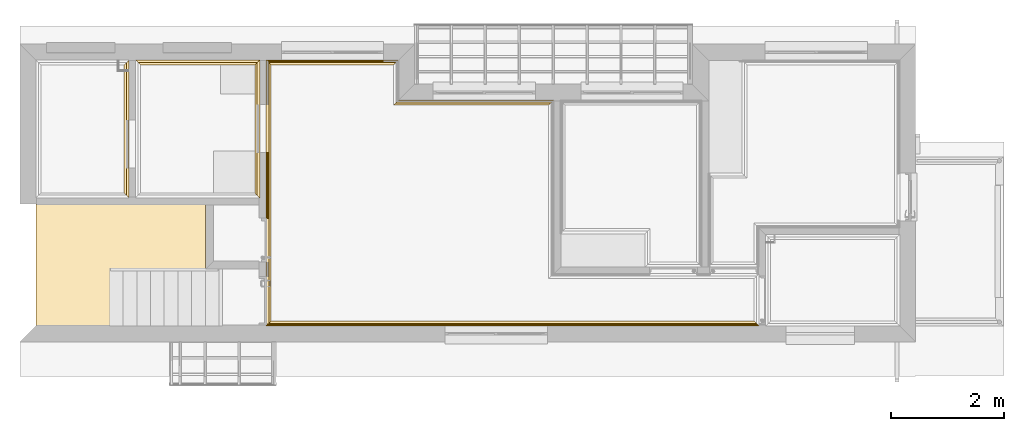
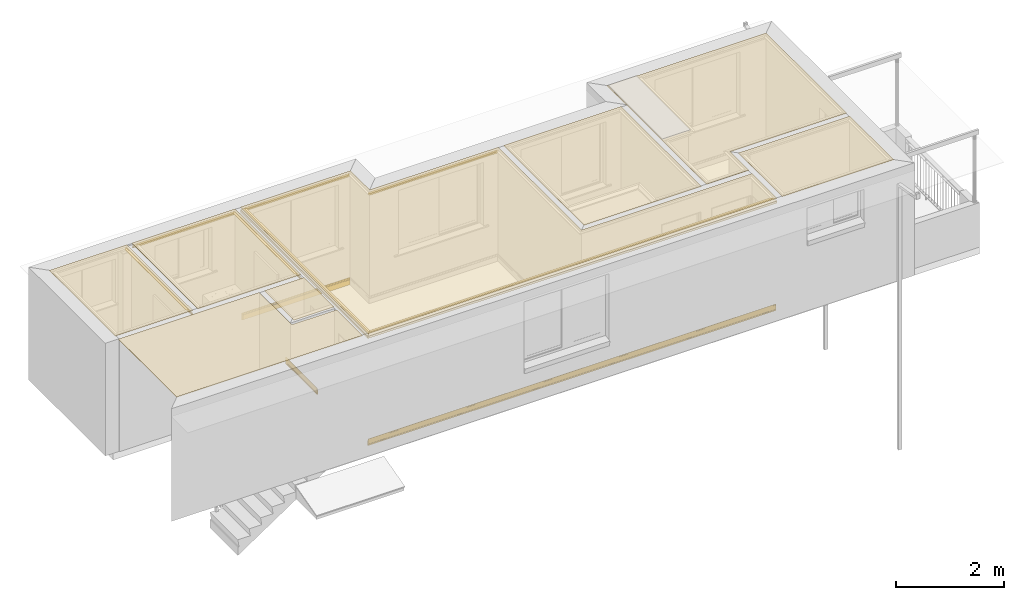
# One storey, part 12 of 18: 11 coverings.
"""IFC2X3 building model written with IfcOpenShell, lengths in millimetres."""

import ifcopenshell
import ifcopenshell.guid

model = None  # the IFC model being written
_history = None  # IfcOwnerHistory: only IFC2X3 demands one
_inside = {}  # id of a spatial element -> (the spatial element, [elements in it])
_under = {}  # id of a project, library or spatial element -> (it, [spatial elements below it])
_declared = {}  # id of a project -> (the project, [libraries it declares])
_typed = {}  # id of a type object -> (the type object, [elements of that type])
_made_of = {}  # id of a material, layer set ... -> (it, [elements and type objects made of it])


def new_model(schema):
    """Start an empty IFC model of exactly this schema.

    Asked for "IFC4X3", IfcOpenShell would pick the latest addendum, in which some entities
    have other attributes; the version numbers below select the first issue.
    IFC2X3 requires an IfcOwnerHistory on every rooted entity: one is made here for all.
    """
    global model, _history
    if schema == "IFC4X3":
        model = ifcopenshell.file(schema_version=(4, 3, 0, 0))
    else:
        model = ifcopenshell.file(schema=schema)
    _inside.clear()
    _under.clear()
    _declared.clear()
    _typed.clear()
    _made_of.clear()
    _history = None
    if model.schema == "IFC2X3":
        org = make("IfcOrganization", Name="unknown")
        user = make(
            "IfcPersonAndOrganization",
            ThePerson=make("IfcPerson", FamilyName="unknown"),
            TheOrganization=org,
        )
        app = make(
            "IfcApplication",
            ApplicationDeveloper=org,
            Version="unknown",
            ApplicationFullName="unknown",
            ApplicationIdentifier="unknown",
        )
        _history = make(
            "IfcOwnerHistory",
            OwningUser=user,
            OwningApplication=app,
            ChangeAction="ADDED",
            CreationDate=0,
        )
    return model


def make(cls, **values):
    """One entity of the class cls with the attributes given. An attribute that is None is left unset."""
    return model.create_entity(
        cls, **{name: value for name, value in values.items() if value is not None}
    )


def entity(cls, *values):
    """Any entity or typed value of the class cls, its attributes in the order of the schema. None: left unset."""
    e = model.create_entity(cls)
    for i, value in enumerate(values):
        if value is not None:
            e[i] = value
    return e


def rooted(cls, **values):
    """An entity with a GlobalId (a new one), such as an element, a storey or a relation."""
    return make(cls, GlobalId=ifcopenshell.guid.new(), OwnerHistory=_history, **values)


def si_unit(unit_type, name, prefix=None):
    """IfcSIUnit, for example si_unit("LENGTHUNIT", "METRE", prefix="MILLI")."""
    return make("IfcSIUnit", UnitType=unit_type, Prefix=prefix, Name=name)


def converted_unit(unit_type, name, factor, base, dimensions=None, offset=None):
    """IfcConversionBasedUnit, such as the inch: factor (a typed value) times the base unit."""
    return make(
        "IfcConversionBasedUnit"
        if offset is None
        else "IfcConversionBasedUnitWithOffset",
        ConversionOffset=offset,
        Dimensions=None
        if dimensions is None
        else entity("IfcDimensionalExponents", *dimensions),
        UnitType=unit_type,
        Name=name,
        ConversionFactor=make(
            "IfcMeasureWithUnit", ValueComponent=factor, UnitComponent=base
        ),
    )


def money_unit(currency):
    """IfcMonetaryUnit."""
    return make("IfcMonetaryUnit", Currency=currency)


def assignment(units):
    """IfcUnitAssignment: the units of a project."""
    return None if units is None else make("IfcUnitAssignment", Units=units)


def point(xyz):
    """IfcCartesianPoint."""
    return None if xyz is None else make("IfcCartesianPoint", Coordinates=xyz)


def direction(xyz):
    """IfcDirection."""
    return None if xyz is None else make("IfcDirection", DirectionRatios=xyz)


def frame(location, z_axis=None, x_axis=None):
    """IfcAxis2Placement3D, a coordinate frame: its origin and axes. An axis left out is left unset."""
    return make(
        "IfcAxis2Placement3D",
        Location=point(location),
        Axis=direction(z_axis),
        RefDirection=direction(x_axis),
    )


def origin_with_axes():
    """The frame at (0, 0, 0) with the z axis (0, 0, 1) and the x axis (1, 0, 0) written out."""
    return frame((0.0, 0.0, 0.0), z_axis=(0.0, 0.0, 1.0), x_axis=(1.0, 0.0, 0.0))


def place(relative_to, where):
    """IfcLocalPlacement: puts the frame where relative to a parent placement (None: the world)."""
    return make(
        "IfcLocalPlacement", PlacementRelTo=relative_to, RelativePlacement=where
    )


def context(
    kind, dimensions, precision=None, world=None, true_north=None, identifier=None
):
    """IfcGeometricRepresentationContext, for example the 3D "Model" context."""
    return make(
        "IfcGeometricRepresentationContext",
        ContextIdentifier=identifier,
        ContextType=kind,
        CoordinateSpaceDimension=dimensions,
        Precision=precision,
        WorldCoordinateSystem=world,
        TrueNorth=true_north,
    )


def subcontext(parent, identifier, kind, view, scale=None):
    """IfcGeometricRepresentationSubContext, for example "Body" below "Model"."""
    return make(
        "IfcGeometricRepresentationSubContext",
        ContextIdentifier=identifier,
        ContextType=kind,
        ParentContext=parent,
        TargetScale=scale,
        TargetView=view,
    )


def project(units=None, contexts=None):
    """IfcProject with its units and contexts."""
    return rooted(
        "IfcProject",
        Name="project",
        RepresentationContexts=contexts,
        UnitsInContext=assignment(units),
    )


def spatial(cls, under=None, at=None, **own):
    """A site, building, storey or space (cls), placed at a placement, below another one or the project."""
    s = rooted(cls, ObjectPlacement=at, **own)
    if under is not None:
        _under.setdefault(under.id(), (under, []))[1].append(s)
    return s


def faces_of(points, faces, orient=None, outer=None):
    """IfcFace entities. A face is a list of loops; a loop is a list of indices into points, from 0.

    orient and outer hold one flag for each loop. By default every Orientation is true, the
    first loop of a face is its IfcFaceOuterBound and the others are IfcFaceBound.
    """
    made = []
    for i, loops in enumerate(faces):
        bounds = []
        for j, loop in enumerate(loops):
            is_outer = j == 0 if outer is None else outer[i][j]
            bounds.append(
                make(
                    "IfcFaceOuterBound" if is_outer else "IfcFaceBound",
                    Bound=make("IfcPolyLoop", Polygon=[points[k] for k in loop]),
                    Orientation=True if orient is None else orient[i][j],
                )
            )
        made.append(make("IfcFace", Bounds=bounds))
    return made


def faceted_brep(points, faces, orient=None, outer=None, voids=None):
    """IfcFacetedBrep: a solid bounded by flat faces; with voids (closed shells), ...WithVoids."""
    shared = [point(p) for p in points]
    hull = make("IfcClosedShell", CfsFaces=faces_of(shared, faces, orient, outer))
    if voids is None:
        return make("IfcFacetedBrep", Outer=hull)
    return make(
        "IfcFacetedBrepWithVoids",
        Outer=hull,
        Voids=[
            make(cls, CfsFaces=faces_of(shared, fs, o, b)) for cls, fs, o, b in voids
        ],
    )


def shape(context_of_items, identifier, shape_type, items):
    """IfcShapeRepresentation: the items that make up one representation, for example the "Body"."""
    return make(
        "IfcShapeRepresentation",
        ContextOfItems=context_of_items,
        RepresentationIdentifier=identifier,
        RepresentationType=shape_type,
        Items=items,
    )


def source(mapping_origin, context_of_items, identifier, shape_type, items):
    """IfcRepresentationMap: a shape defined once, which mapped items show again and again."""
    return make(
        "IfcRepresentationMap",
        MappingOrigin=mapping_origin,
        MappedRepresentation=shape(context_of_items, identifier, shape_type, items),
    )


def transform(
    local_origin,
    x_axis=None,
    y_axis=None,
    z_axis=None,
    scale=None,
    scale2=None,
    scale3=None,
    uniform=True,
):
    """IfcCartesianTransformationOperator3D, or its non-uniform kind. x_axis, y_axis, z_axis: its Axis1, 2, 3."""
    if uniform:
        return make(
            "IfcCartesianTransformationOperator3D",
            Axis1=direction(x_axis),
            Axis2=direction(y_axis),
            LocalOrigin=point(local_origin),
            Scale=scale,
            Axis3=direction(z_axis),
        )
    return make(
        "IfcCartesianTransformationOperator3DnonUniform",
        Axis1=direction(x_axis),
        Axis2=direction(y_axis),
        LocalOrigin=point(local_origin),
        Scale=scale,
        Axis3=direction(z_axis),
        Scale2=scale2,
        Scale3=scale3,
    )


def mapped(mapping_source, mapping_target):
    """IfcMappedItem: shows the shape of a source again, moved by a transform."""
    return make(
        "IfcMappedItem", MappingSource=mapping_source, MappingTarget=mapping_target
    )


def material(Name=None, Category=None):
    """IfcMaterial."""
    return make("IfcMaterial", Name=Name, Category=Category)


def made_of(thing, what):
    """Note that an element or type object is made of a material, layer set ...; save() writes the relation."""
    if what is not None:
        _made_of.setdefault(what.id(), (what, []))[1].append(thing)
    return thing


def type_object(cls, material=None, **own):
    """A type object (cls), such as IfcWallType, which elements share."""
    return made_of(rooted(cls, **own), material)


def element(
    cls,
    number,
    at=None,
    inside=None,
    cuts=None,
    type_object=None,
    material=None,
    context=None,
    identifier="Body",
    shape_type=None,
    held_by="IfcProductDefinitionShape",
    body=None,
    shapes=None,
    **own,
):
    """One element of the class cls, such as IfcWall. Its Tag is "e" and its number.

    at: its placement. inside: the storey or other place that contains it. cuts: it is an
    opening in that element (IfcRelVoidsElement). A single representation is given by context,
    identifier, shape_type and body (its items); several are given by shapes. held_by: the class
    of the entity that holds the representations. save() writes the other relations.
    """
    e = rooted(cls, Tag="e%d" % number, ObjectPlacement=at, **own)
    if body is not None:
        shapes = [shape(context, identifier, shape_type, body)]
    if shapes is not None:
        e.Representation = make(held_by, Representations=shapes)
    if inside is not None:
        _inside.setdefault(inside.id(), (inside, []))[1].append(e)
    if cuts is not None:
        rooted(
            "IfcRelVoidsElement", RelatingBuildingElement=cuts, RelatedOpeningElement=e
        )
    if type_object is not None:
        _typed.setdefault(type_object.id(), (type_object, []))[1].append(e)
    return made_of(e, material)


def aggregate(whole, parts):
    """IfcRelAggregates: a whole, such as a stair, and the parts it consists of."""
    return rooted("IfcRelAggregates", RelatingObject=whole, RelatedObjects=parts)


def save(model, path):
    """Write the relations noted so far, then the file.

    IfcRelAggregates (storeys below a building ...), IfcRelContainedInSpatialStructure (elements
    in a storey), IfcRelDefinesByType, IfcRelAssociatesMaterial and IfcRelDeclares: one each for
    every whole, place, type object, material and project.
    """
    for whole, parts in _under.values():
        aggregate(whole, parts)
    for where, things in _inside.values():
        rooted(
            "IfcRelContainedInSpatialStructure",
            RelatedElements=things,
            RelatingStructure=where,
        )
    for kind, things in _typed.values():
        rooted("IfcRelDefinesByType", RelatedObjects=things, RelatingType=kind)
    for what, things in _made_of.values():
        rooted("IfcRelAssociatesMaterial", RelatedObjects=things, RelatingMaterial=what)
    for by, libraries in _declared.values():
        rooted("IfcRelDeclares", RelatingContext=by, RelatedDefinitions=libraries)
    model.write(path)


model = new_model("IFC2X3")

# Units and contexts
model_context = context("Model", 3, precision=1e-05, world=origin_with_axes(), true_north=direction((0.0, 1.0)))
body_context = subcontext(model_context, "Body", "Model", "MODEL_VIEW")
ifc_project = project(units=[si_unit("LENGTHUNIT", "METRE", prefix="MILLI"), si_unit("AREAUNIT", "SQUARE_METRE"), si_unit("VOLUMEUNIT", "CUBIC_METRE"), converted_unit("PLANEANGLEUNIT", "DEGREE", entity("IfcPlaneAngleMeasure", 0.0174532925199), si_unit("PLANEANGLEUNIT", "RADIAN"), dimensions=[0, 0, 0, 0, 0, 0, 0]), si_unit("SOLIDANGLEUNIT", "STERADIAN"), money_unit("AUD"), si_unit("TIMEUNIT", "SECOND"), si_unit("MASSUNIT", "GRAM"), si_unit("THERMODYNAMICTEMPERATUREUNIT", "DEGREE_CELSIUS"), si_unit("LUMINOUSINTENSITYUNIT", "LUMEN")], contexts=[model_context])

# Site, building, storey
site_placement = place(None, origin_with_axes())
site = spatial("IfcSite", under=ifc_project, at=site_placement, Name="Lot 1. East Hills", CompositionType="ELEMENT")
building_placement = place(site_placement, origin_with_axes())
building = spatial("IfcBuilding", under=site, at=building_placement, Name="Proposed Units 7 & 8", CompositionType="ELEMENT")
storey_placement = place(building_placement, frame((0.0, 0.0, 5859.0), z_axis=(0.0, 0.0, 1.0), x_axis=(1.0, 0.0, 0.0)))
storey = spatial("IfcBuildingStorey", under=building, at=storey_placement, Name="Level 1", CompositionType="ELEMENT", Elevation=5859.0)

# Coverings
ifc_material = material(Name="50 %")
covering_type_1 = type_object("IfcCoveringType", Name="Molding Straight 12", PredefinedType="NOTDEFINED")
shared_shape_1 = source(origin_with_axes(), body_context, "Body", "Brep", [
    faceted_brep([(-2440.0, 0.0, -97.7142857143), (0.0, 0.0, -97.7142857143), (-20.5714285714, -20.5714285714, -97.7142857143), (-2419.42857143, -20.5714285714, -97.7142857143), (-2440.0, 0.0, -48.8571428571), (0.0, 0.0, -48.8571428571), (-48.8571428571, -48.8571428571, 0.0), (-90.0, -90.0, 0.0), (-90.0, -90.0, -12.8571428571), (-74.5714285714, -74.5714285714, -12.8571428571), (-74.5714285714, -74.5714285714, -25.7142857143), (-60.5952001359, -60.5952001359, -27.5542910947), (-47.5714285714, -47.5714285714, -32.9489139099), (-36.3876623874, -36.3876623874, -41.5305195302), (-27.8060567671, -27.8060567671, -52.7142857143), (-22.4114339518, -22.4114339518, -65.7380572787), (-20.5714285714, -20.5714285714, -79.7142857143), (-2419.42857143, -20.5714285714, -79.7142857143), (-2417.58856605, -22.4114339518, -65.7380572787), (-2412.19394323, -27.8060567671, -52.7142857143), (-2403.61233761, -36.3876623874, -41.5305195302), (-2392.42857143, -47.5714285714, -32.9489139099), (-2379.40479986, -60.5952001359, -27.5542910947), (-2365.42857143, -74.5714285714, -25.7142857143), (-2365.42857143, -74.5714285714, -12.8571428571), (-2350.0, -90.0, -12.8571428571), (-2350.0, -90.0, 0.0), (-2391.14285714, -48.8571428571, 0.0)], [[[0, 1, 2, 3]], [[4, 5, 1, 0]], [[1, 5, 6, 7, 8, 9, 10, 11, 12, 13, 14, 15, 16, 2]], [[3, 2, 16, 17]], [[0, 3, 17, 18, 19, 20, 21, 22, 23, 24, 25, 26, 27, 4]], [[27, 6, 5, 4]], [[26, 7, 6, 27]], [[25, 8, 7, 26]], [[24, 9, 8, 25]], [[23, 10, 9, 24]], [[22, 11, 10, 23]], [[21, 12, 11, 22]], [[20, 13, 12, 21]], [[19, 14, 13, 20]], [[18, 15, 14, 19]], [[17, 16, 15, 18]]]),
])
covering_1_placement = place(storey_placement, frame((1930.0, 2543.00000067, 2523.0), z_axis=(0.0, 0.0, 1.0), x_axis=(0.0, -1.0, 0.0)))
element("IfcCovering", 1, at=covering_1_placement, inside=storey, type_object=covering_type_1, material=ifc_material, Name="CEL_MOD_133 - Molding Straight 12 - object -", PredefinedType="NOTDEFINED", context=body_context, shape_type="MappedRepresentation", body=[
    mapped(shared_shape_1, transform((0.0, 0.0, 0.0))),
])
shared_shape_2 = source(origin_with_axes(), body_context, "Body", "Brep", [
    faceted_brep([(-2440.0, 0.0, -97.7142857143), (0.0, 0.0, -97.7142857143), (-20.5714285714, -20.5714285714, -97.7142857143), (-2419.42857143, -20.5714285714, -97.7142857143), (-2440.0, 0.0, -48.8571428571), (0.0, 0.0, -48.8571428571), (-48.8571428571, -48.8571428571, 0.0), (-90.0, -90.0, 0.0), (-90.0, -90.0, -12.8571428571), (-74.5714285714, -74.5714285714, -12.8571428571), (-74.5714285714, -74.5714285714, -25.7142857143), (-60.5952001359, -60.5952001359, -27.5542910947), (-47.5714285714, -47.5714285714, -32.9489139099), (-36.3876623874, -36.3876623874, -41.5305195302), (-27.8060567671, -27.8060567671, -52.7142857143), (-22.4114339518, -22.4114339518, -65.7380572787), (-20.5714285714, -20.5714285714, -79.7142857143), (-2419.42857143, -20.5714285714, -79.7142857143), (-2417.58856605, -22.4114339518, -65.7380572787), (-2412.19394323, -27.8060567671, -52.7142857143), (-2403.61233761, -36.3876623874, -41.5305195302), (-2392.42857143, -47.5714285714, -32.9489139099), (-2379.40479986, -60.5952001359, -27.5542910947), (-2365.42857143, -74.5714285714, -25.7142857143), (-2365.42857143, -74.5714285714, -12.8571428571), (-2350.0, -90.0, -12.8571428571), (-2350.0, -90.0, 0.0), (-2391.14285714, -48.8571428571, 0.0)], [[[0, 1, 2, 3]], [[4, 5, 1, 0]], [[1, 5, 6, 7, 8, 9, 10, 11, 12, 13, 14, 15, 16, 2]], [[3, 2, 16, 17]], [[0, 3, 17, 18, 19, 20, 21, 22, 23, 24, 25, 26, 27, 4]], [[27, 6, 5, 4]], [[26, 7, 6, 27]], [[25, 8, 7, 26]], [[24, 9, 8, 25]], [[23, 10, 9, 24]], [[22, 11, 10, 23]], [[21, 12, 11, 22]], [[20, 13, 12, 21]], [[19, 14, 13, 20]], [[18, 15, 14, 19]], [[17, 16, 15, 18]]]),
])
covering_2_placement = place(storey_placement, frame((4239.99999933, 2543.00000067, 2523.0), z_axis=(0.0, 0.0, 1.0), x_axis=(0.0, -1.0, 0.0)))
element("IfcCovering", 2, at=covering_2_placement, inside=storey, type_object=covering_type_1, material=ifc_material, Name="CEL_MOD_131 - Molding Straight 12 - object -", PredefinedType="NOTDEFINED", context=body_context, shape_type="MappedRepresentation", body=[
    mapped(shared_shape_2, transform((0.0, 0.0, 0.0))),
])
shared_shape_3 = source(origin_with_axes(), body_context, "Body", "Brep", [
    faceted_brep([(-2199.99999993, 0.0, -97.7142857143), (0.0, 0.0, -97.7142857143), (-20.5714285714, -20.5714285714, -97.7142857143), (-2179.42857135, -20.5714285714, -97.7142857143), (-2199.99999993, 0.0, -48.8571428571), (0.0, 0.0, -48.8571428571), (-48.8571428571, -48.8571428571, 0.0), (-90.0, -90.0, 0.0), (-90.0, -90.0, -12.8571428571), (-74.5714285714, -74.5714285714, -12.8571428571), (-74.5714285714, -74.5714285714, -25.7142857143), (-60.5952001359, -60.5952001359, -27.5542910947), (-47.5714285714, -47.5714285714, -32.9489139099), (-36.3876623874, -36.3876623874, -41.5305195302), (-27.8060567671, -27.8060567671, -52.7142857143), (-22.4114339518, -22.4114339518, -65.7380572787), (-20.5714285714, -20.5714285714, -79.7142857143), (-2179.42857135, -20.5714285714, -79.7142857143), (-2177.58856597, -22.4114339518, -65.7380572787), (-2172.19394316, -27.8060567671, -52.7142857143), (-2163.61233754, -36.3876623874, -41.5305195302), (-2152.42857135, -47.5714285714, -32.9489139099), (-2139.40479979, -60.5952001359, -27.5542910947), (-2125.42857135, -74.5714285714, -25.7142857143), (-2125.42857135, -74.5714285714, -12.8571428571), (-2109.99999993, -90.0, -12.8571428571), (-2109.99999993, -90.0, 0.0), (-2151.14285707, -48.8571428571, 0.0)], [[[0, 1, 2, 3]], [[4, 5, 1, 0]], [[1, 5, 6, 7, 8, 9, 10, 11, 12, 13, 14, 15, 16, 2]], [[3, 2, 16, 17]], [[0, 3, 17, 18, 19, 20, 21, 22, 23, 24, 25, 26, 27, 4]], [[27, 6, 5, 4]], [[26, 7, 6, 27]], [[25, 8, 7, 26]], [[24, 9, 8, 25]], [[23, 10, 9, 24]], [[22, 11, 10, 23]], [[21, 12, 11, 22]], [[20, 13, 12, 21]], [[19, 14, 13, 20]], [[18, 15, 14, 19]], [[17, 16, 15, 18]]]),
])
covering_3_placement = place(storey_placement, frame((4239.99999933, 4983.00000067, 2523.0), z_axis=(0.0, 0.0, 1.0), x_axis=(1.0, 0.0, 0.0)))
element("IfcCovering", 3, at=covering_3_placement, inside=storey, type_object=covering_type_1, material=ifc_material, Name="CEL_MOD_129 - Molding Straight 12 - object -", PredefinedType="NOTDEFINED", context=body_context, shape_type="MappedRepresentation", body=[
    mapped(shared_shape_3, transform((0.0, 0.0, 0.0))),
])
shared_shape_4 = source(origin_with_axes(), body_context, "Body", "Brep", [
    faceted_brep([(-2337.89486457, 0.0, -97.7142857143), (0.0, 0.0, -97.7142857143), (-20.5714285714, -20.5714285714, -97.7142857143), (-2317.323436, -20.5714285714, -97.7142857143), (-2337.89486457, 0.0, -48.8571428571), (0.0, 0.0, -48.8571428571), (-48.8571428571, -48.8571428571, 0.0), (-90.0, -90.0, 0.0), (-90.0, -90.0, -12.8571428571), (-74.5714285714, -74.5714285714, -12.8571428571), (-74.5714285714, -74.5714285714, -25.7142857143), (-60.5952001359, -60.5952001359, -27.5542910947), (-47.5714285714, -47.5714285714, -32.9489139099), (-36.3876623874, -36.3876623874, -41.5305195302), (-27.8060567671, -27.8060567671, -52.7142857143), (-22.4114339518, -22.4114339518, -65.7380572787), (-20.5714285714, -20.5714285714, -79.7142857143), (-2317.323436, -20.5714285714, -79.7142857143), (-2315.48343062, -22.4114339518, -65.7380572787), (-2310.0888078, -27.8060567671, -52.7142857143), (-2301.50720218, -36.3876623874, -41.5305195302), (-2290.323436, -47.5714285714, -32.9489139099), (-2277.29966443, -60.5952001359, -27.5542910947), (-2263.323436, -74.5714285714, -25.7142857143), (-2263.323436, -74.5714285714, -12.8571428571), (-2247.89486457, -90.0, -12.8571428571), (-2247.89486457, -90.0, 0.0), (-2289.03772171, -48.8571428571, 0.0)], [[[0, 1, 2, 3]], [[4, 5, 1, 0]], [[1, 5, 6, 7, 8, 9, 10, 11, 12, 13, 14, 15, 16, 2]], [[3, 2, 16, 17]], [[0, 3, 17, 18, 19, 20, 21, 22, 23, 24, 25, 26, 27, 4]], [[27, 6, 5, 4]], [[26, 7, 6, 27]], [[25, 8, 7, 26]], [[24, 9, 8, 25]], [[23, 10, 9, 24]], [[22, 11, 10, 23]], [[21, 12, 11, 22]], [[20, 13, 12, 21]], [[19, 14, 13, 20]], [[18, 15, 14, 19]], [[17, 16, 15, 18]]]),
])
covering_4_placement = place(storey_placement, frame((6687.8948633, 4983.00000067, 2523.0), z_axis=(0.0, 0.0, 1.0), x_axis=(1.0, 0.0, 0.0)))
element("IfcCovering", 4, at=covering_4_placement, inside=storey, type_object=covering_type_1, material=ifc_material, Name="CEL_MOD_114 - Molding Straight 12 - object -", PredefinedType="NOTDEFINED", context=body_context, shape_type="MappedRepresentation", body=[
    mapped(shared_shape_4, transform((0.0, 0.0, 0.0))),
])
shared_shape_5 = source(origin_with_axes(), body_context, "Body", "Brep", [
    faceted_brep([(8715.00000307, 0.0, -97.7142857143), (8694.4285745, -20.5714285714, -97.7142857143), (20.5714285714, -20.5714285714, -97.7142857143), (0.0, 0.0, -97.7142857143), (8715.00000307, 0.0, -48.8571428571), (8666.14286021, -48.8571428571, 0.0), (8625.00000307, -90.0, 0.0), (8625.00000307, -90.0, -12.8571428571), (8640.4285745, -74.5714285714, -12.8571428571), (8640.4285745, -74.5714285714, -25.7142857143), (8654.40480293, -60.5952001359, -27.5542910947), (8667.4285745, -47.5714285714, -32.9489139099), (8678.61234068, -36.3876623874, -41.5305195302), (8687.1939463, -27.8060567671, -52.7142857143), (8692.58856912, -22.4114339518, -65.7380572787), (8694.4285745, -20.5714285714, -79.7142857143), (20.5714285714, -20.5714285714, -79.7142857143), (22.4114339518, -22.4114339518, -65.7380572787), (27.8060567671, -27.8060567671, -52.7142857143), (36.3876623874, -36.3876623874, -41.5305195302), (47.5714285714, -47.5714285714, -32.9489139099), (60.5952001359, -60.5952001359, -27.5542910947), (74.5714285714, -74.5714285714, -25.7142857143), (74.5714285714, -74.5714285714, -12.8571428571), (90.0, -90.0, -12.8571428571), (90.0, -90.0, 0.0), (48.8571428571, -48.8571428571, 0.0), (0.0, 0.0, -48.8571428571)], [[[0, 1, 2, 3]], [[0, 4, 5, 6, 7, 8, 9, 10, 11, 12, 13, 14, 15, 1]], [[1, 15, 16, 2]], [[3, 2, 16, 17, 18, 19, 20, 21, 22, 23, 24, 25, 26, 27]], [[4, 0, 3, 27]], [[5, 4, 27, 26]], [[6, 5, 26, 25]], [[7, 6, 25, 24]], [[8, 7, 24, 23]], [[9, 8, 23, 22]], [[10, 9, 22, 21]], [[11, 10, 21, 20]], [[12, 11, 20, 19]], [[13, 12, 19, 18]], [[14, 13, 18, 17]], [[15, 14, 17, 16]]]),
])
covering_5_placement = place(storey_placement, frame((13065.0000018, 277.999999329, 2523.0), z_axis=(0.0, 0.0, 1.0), x_axis=(-1.0, 0.0, 0.0)))
element("IfcCovering", 5, at=covering_5_placement, inside=storey, type_object=covering_type_1, material=ifc_material, Name="CEL_MOD_111 - Molding Straight 12 - object -", PredefinedType="NOTDEFINED", context=body_context, shape_type="MappedRepresentation", body=[
    mapped(shared_shape_5, transform((0.0, 0.0, 0.0))),
])
shared_shape_6 = source(origin_with_axes(), body_context, "Body", "Brep", [
    faceted_brep([(-2739.99999888, 0.0, -97.7142857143), (0.0, 0.0, -97.7142857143), (-20.5714285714, -20.5714285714, -97.7142857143), (-2760.57142745, -20.5714285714, -97.7142857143), (-2739.99999888, 0.0, -48.8571428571), (0.0, 0.0, -48.8571428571), (-48.8571428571, -48.8571428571, 0.0), (-90.0, -90.0, 0.0), (-90.0, -90.0, -12.8571428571), (-74.5714285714, -74.5714285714, -12.8571428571), (-74.5714285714, -74.5714285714, -25.7142857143), (-60.5952001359, -60.5952001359, -27.5542910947), (-47.5714285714, -47.5714285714, -32.9489139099), (-36.3876623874, -36.3876623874, -41.5305195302), (-27.8060567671, -27.8060567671, -52.7142857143), (-22.4114339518, -22.4114339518, -65.7380572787), (-20.5714285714, -20.5714285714, -79.7142857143), (-2760.57142745, -20.5714285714, -79.7142857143), (-2762.41143283, -22.4114339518, -65.7380572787), (-2767.80605565, -27.8060567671, -52.7142857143), (-2776.38766127, -36.3876623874, -41.5305195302), (-2787.57142745, -47.5714285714, -32.9489139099), (-2800.59519902, -60.5952001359, -27.5542910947), (-2814.57142745, -74.5714285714, -25.7142857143), (-2814.57142745, -74.5714285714, -12.8571428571), (-2829.99999888, -90.0, -12.8571428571), (-2829.99999888, -90.0, 0.0), (-2788.85714174, -48.8571428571, 0.0)], [[[0, 1, 2, 3]], [[4, 5, 1, 0]], [[1, 5, 6, 7, 8, 9, 10, 11, 12, 13, 14, 15, 16, 2]], [[3, 2, 16, 17]], [[0, 3, 17, 18, 19, 20, 21, 22, 23, 24, 25, 26, 27, 4]], [[27, 6, 5, 4]], [[26, 7, 6, 27]], [[25, 8, 7, 26]], [[24, 9, 8, 25]], [[23, 10, 9, 24]], [[22, 11, 10, 23]], [[21, 12, 11, 22]], [[20, 13, 12, 21]], [[19, 14, 13, 20]], [[18, 15, 14, 19]], [[17, 16, 15, 18]]]),
])
covering_6_placement = place(storey_placement, frame((9434.99999955, 4273.00000067, 2523.0), z_axis=(0.0, 0.0, 1.0), x_axis=(1.0, 0.0, 0.0)))
element("IfcCovering", 6, at=covering_6_placement, inside=storey, type_object=covering_type_1, material=ifc_material, Name="CEL_MOD_110 - Molding Straight 12 - object -", PredefinedType="NOTDEFINED", context=body_context, shape_type="MappedRepresentation", body=[
    mapped(shared_shape_6, transform((0.0, 0.0, 0.0))),
])
shared_shape_7 = source(origin_with_axes(), body_context, "Body", "Brep", [
    faceted_brep([(-4705.00000134, 0.0, -97.7142857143), (0.0, 0.0, -97.7142857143), (-20.5714285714, -20.5714285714, -97.7142857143), (-4684.42857277, -20.5714285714, -97.7142857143), (-4705.00000134, 0.0, -48.8571428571), (0.0, 0.0, -48.8571428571), (-48.8571428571, -48.8571428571, 0.0), (-90.0, -90.0, 0.0), (-90.0, -90.0, -12.8571428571), (-74.5714285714, -74.5714285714, -12.8571428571), (-74.5714285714, -74.5714285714, -25.7142857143), (-60.5952001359, -60.5952001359, -27.5542910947), (-47.5714285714, -47.5714285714, -32.9489139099), (-36.3876623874, -36.3876623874, -41.5305195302), (-27.8060567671, -27.8060567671, -52.7142857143), (-22.4114339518, -22.4114339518, -65.7380572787), (-20.5714285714, -20.5714285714, -79.7142857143), (-4684.42857277, -20.5714285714, -79.7142857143), (-4682.58856739, -22.4114339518, -65.7380572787), (-4677.19394457, -27.8060567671, -52.7142857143), (-4668.61233895, -36.3876623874, -41.5305195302), (-4657.42857277, -47.5714285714, -32.9489139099), (-4644.40480121, -60.5952001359, -27.5542910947), (-4630.42857277, -74.5714285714, -25.7142857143), (-4630.42857277, -74.5714285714, -12.8571428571), (-4615.00000134, -90.0, -12.8571428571), (-4615.00000134, -90.0, 0.0), (-4656.14285848, -48.8571428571, 0.0)], [[[0, 1, 2, 3]], [[4, 5, 1, 0]], [[1, 5, 6, 7, 8, 9, 10, 11, 12, 13, 14, 15, 16, 2]], [[3, 2, 16, 17]], [[0, 3, 17, 18, 19, 20, 21, 22, 23, 24, 25, 26, 27, 4]], [[27, 6, 5, 4]], [[26, 7, 6, 27]], [[25, 8, 7, 26]], [[24, 9, 8, 25]], [[23, 10, 9, 24]], [[22, 11, 10, 23]], [[21, 12, 11, 22]], [[20, 13, 12, 21]], [[19, 14, 13, 20]], [[18, 15, 14, 19]], [[17, 16, 15, 18]]]),
])
covering_7_placement = place(storey_placement, frame((4349.99999873, 4983.00000067, 2523.0), z_axis=(0.0, 0.0, 1.0), x_axis=(0.0, 1.0, 0.0)))
element("IfcCovering", 7, at=covering_7_placement, inside=storey, type_object=covering_type_1, material=ifc_material, Name="CEL_MOD_109 - Molding Straight 12 - object -", PredefinedType="NOTDEFINED", context=body_context, shape_type="MappedRepresentation", body=[
    mapped(shared_shape_7, transform((0.0, 0.0, 0.0))),
])
shared_shape_8 = source(origin_with_axes(), body_context, "Body", "Brep", [
    faceted_brep([(8684.96962276, -19.0298507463, -150.0), (8684.96962276, -19.0298507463, -40.2985074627), (0.0, -19.0298507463, -40.2985074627), (0.0, -19.0298507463, -150.0), (8684.96265462, 0.0, -150.0), (8684.96265462, 0.0, -120.895522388), (8684.9634744, -2.23880597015, -118.656716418), (8684.9634744, -2.23880597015, -24.6268656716), (8684.96265462, 0.0, -22.3880597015), (8684.96265462, 0.0, 0.0), (8684.96511396, -6.71641791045, 0.0), (8684.96593374, -8.9552238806, -4.4776119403), (8684.96602043, -9.19197067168, -5.17383533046), (8684.96603551, -9.23315907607, -5.90805571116), (8684.96597788, -9.07576633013, -6.62638959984), (8684.96585176, -8.73134328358, -7.27611940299), (8684.96564666, -8.1712130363, -8.36014699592), (8684.96556484, -7.94776119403, -9.55970149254), (8684.96567497, -8.2485368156, -12.6066468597), (8684.96608118, -9.35788915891, -15.4603601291), (8684.96675352, -11.1940298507, -17.9104477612), (8684.96837461, -15.6211975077, -24.0923863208), (8684.96921287, -17.9104477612, -31.3432835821), (8684.96921846, -17.9257206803, -33.6342255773), (8684.96898988, -17.3014780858, -35.8385326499), (8684.96854527, -16.087254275, -37.7812907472), (8684.96791991, -14.3793991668, -39.3083399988), (8684.96716341, -12.3134328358, -40.2985074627), (0.0, -12.3134328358, -40.2985074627), (0.0, -14.3793991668, -39.3083399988), (0.0, -16.087254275, -37.7812907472), (0.0, -17.3014780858, -35.8385326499), (0.0, -17.9257206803, -33.6342255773), (0.0, -17.9104477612, -31.3432835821), (0.0, -15.6211975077, -24.0923863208), (0.0, -11.1940298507, -17.9104477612), (0.0, -9.35788915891, -15.4603601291), (0.0, -8.2485368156, -12.6066468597), (0.0, -7.94776119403, -9.55970149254), (0.0, -8.1712130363, -8.36014699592), (0.0, -8.73134328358, -7.27611940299), (0.0, -9.07576633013, -6.62638959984), (0.0, -9.23315907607, -5.90805571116), (0.0, -9.19197067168, -5.17383533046), (0.0, -8.9552238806, -4.4776119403), (0.0, -6.71641791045, 0.0), (0.0, 0.0, 0.0), (0.0, 0.0, -22.3880597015), (0.0, -2.23880597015, -24.6268656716), (0.0, -2.23880597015, -118.656716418), (0.0, 0.0, -120.895522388), (0.0, 0.0, -150.0)], [[[0, 1, 2, 3]], [[0, 4, 5, 6, 7, 8, 9, 10, 11, 12, 13, 14, 15, 16, 17, 18, 19, 20, 21, 22, 23, 24, 25, 26, 27, 1]], [[1, 27, 28, 2]], [[3, 2, 28, 29, 30, 31, 32, 33, 34, 35, 36, 37, 38, 39, 40, 41, 42, 43, 44, 45, 46, 47, 48, 49, 50, 51]], [[4, 0, 3, 51]], [[5, 4, 51, 50]], [[6, 5, 50, 49]], [[7, 6, 49, 48]], [[8, 7, 48, 47]], [[9, 8, 47, 46]], [[10, 9, 46, 45]], [[11, 10, 45, 44]], [[12, 11, 44, 43]], [[13, 12, 43, 42]], [[14, 13, 42, 41]], [[15, 14, 41, 40]], [[16, 15, 40, 39]], [[17, 16, 39, 38]], [[18, 17, 38, 37]], [[19, 18, 37, 36]], [[20, 19, 36, 35]], [[21, 20, 35, 34]], [[22, 21, 34, 33]], [[23, 22, 33, 32]], [[24, 23, 32, 31]], [[25, 24, 31, 30]], [[26, 25, 30, 29]], [[27, 26, 29, 28]]]),
])
covering_8_placement = place(storey_placement, frame((13050.0000018, 292.999998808, 150.0), z_axis=(0.0, 0.0, 1.0), x_axis=(-1.0, 0.0, 0.0)))
element("IfcCovering", 8, at=covering_8_placement, inside=storey, type_object=covering_type_1, material=ifc_material, Name="Sk_01 - Molding Straight 12 - object -", PredefinedType="NOTDEFINED", context=body_context, shape_type="MappedRepresentation", body=[
    mapped(shared_shape_8, transform((0.0, 0.0, 0.0))),
])
shared_shape_9 = source(origin_with_axes(), body_context, "Body", "Brep", [
    faceted_brep([(1155.84156058, -19.0298507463, -150.0), (1155.84156058, -19.0298507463, -40.2985074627), (-0.770391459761, -19.0298507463, -40.2985074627), (-0.770391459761, -19.0298507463, -150.0), (1155.84170359, 0.0, -150.0), (1155.84170359, 0.0, -120.895522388), (1155.84168676, -2.23880597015, -118.656716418), (1155.84168676, -2.23880597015, -24.6268656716), (1155.84170359, 0.0, -22.3880597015), (1155.84170359, 0.0, 0.0), (1155.84165311, -6.71641791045, 0.0), (1155.84163629, -8.9552238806, -4.4776119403), (1155.84163451, -9.19197067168, -5.17383533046), (1155.8416342, -9.23315907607, -5.90805571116), (1155.84163538, -9.07576633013, -6.62638959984), (1155.84163797, -8.73134328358, -7.27611940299), (1155.84164218, -8.1712130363, -8.36014699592), (1155.84164386, -7.94776119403, -9.55970149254), (1155.8416416, -8.2485368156, -12.6066468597), (1155.84163326, -9.35788915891, -15.4603601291), (1155.84161946, -11.1940298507, -17.9104477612), (1155.8415862, -15.6211975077, -24.0923863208), (1155.84156899, -17.9104477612, -31.3432835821), (1155.84156888, -17.9257206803, -33.6342255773), (1155.84157357, -17.3014780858, -35.8385326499), (1155.84158269, -16.087254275, -37.7812907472), (1155.84159553, -14.3793991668, -39.3083399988), (1155.84161105, -12.3134328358, -40.2985074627), (-0.49848859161, -12.3134328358, -40.2985074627), (-0.582125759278, -14.3793991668, -39.3083399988), (-0.651265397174, -16.087254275, -37.7812907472), (-0.700421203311, -17.3014780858, -35.8385326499), (-0.725692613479, -17.9257206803, -33.6342255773), (-0.725074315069, -17.9104477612, -31.3432835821), (-0.632397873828, -15.6211975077, -24.0923863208), (-0.453171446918, -11.1940298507, -17.9104477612), (-0.378838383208, -9.35788915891, -15.4603601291), (-0.333928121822, -8.2485368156, -12.6066468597), (-0.321751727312, -7.94776119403, -9.55970149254), (-0.330797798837, -8.1712130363, -8.36014699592), (-0.353473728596, -8.73134328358, -7.27611940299), (-0.367417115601, -9.07576633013, -6.62638959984), (-0.37378889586, -9.23315907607, -5.90805571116), (-0.372121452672, -9.19197067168, -5.17383533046), (-0.362537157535, -8.9552238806, -4.4776119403), (-0.271902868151, -6.71641791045, 0.0), (0.0, 0.0, 0.0), (0.0, 0.0, -22.3880597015), (-0.0906342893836, -2.23880597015, -24.6268656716), (-0.0906342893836, -2.23880597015, -118.656716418), (0.0, 0.0, -120.895522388), (0.0, 0.0, -150.0)], [[[0, 1, 2, 3]], [[0, 4, 5, 6, 7, 8, 9, 10, 11, 12, 13, 14, 15, 16, 17, 18, 19, 20, 21, 22, 23, 24, 25, 26, 27, 1]], [[1, 27, 28, 2]], [[3, 2, 28, 29, 30, 31, 32, 33, 34, 35, 36, 37, 38, 39, 40, 41, 42, 43, 44, 45, 46, 47, 48, 49, 50, 51]], [[4, 0, 3, 51]], [[5, 4, 51, 50]], [[6, 5, 50, 49]], [[7, 6, 49, 48]], [[8, 7, 48, 47]], [[9, 8, 47, 46]], [[10, 9, 46, 45]], [[11, 10, 45, 44]], [[12, 11, 44, 43]], [[13, 12, 43, 42]], [[14, 13, 42, 41]], [[15, 14, 41, 40]], [[16, 15, 40, 39]], [[17, 16, 39, 38]], [[18, 17, 38, 37]], [[19, 18, 37, 36]], [[20, 19, 36, 35]], [[21, 20, 35, 34]], [[22, 21, 34, 33]], [[23, 22, 33, 32]], [[24, 23, 32, 31]], [[25, 24, 31, 30]], [[26, 25, 30, 29]], [[27, 26, 29, 28]]]),
])
covering_9_placement = place(storey_placement, frame((4365.02311299, 2187.15934204, 150.0), z_axis=(0.0, 0.0, 1.0), x_axis=(-7.51477654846e-06, 0.999999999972, 0.0)))
element("IfcCovering", 9, at=covering_9_placement, inside=storey, type_object=covering_type_1, material=ifc_material, Name="Sk_01 - Molding Straight 12 - object -", PredefinedType="NOTDEFINED", context=body_context, shape_type="MappedRepresentation", body=[
    mapped(shared_shape_9, transform((0.0, 0.0, 0.0))),
])
shared_shape_10 = source(origin_with_axes(), body_context, "Body", "Brep", [
    faceted_brep([(2295.96571672, -19.0298507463, -150.0), (2295.96571672, -19.0298507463, -40.2985074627), (19.0298507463, -19.0298507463, -40.2985074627), (19.0298507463, -19.0298507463, -150.0), (2314.99556747, 0.0, -150.0), (2314.99556747, 0.0, -120.895522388), (2312.7567615, -2.23880597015, -118.656716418), (2312.7567615, -2.23880597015, -24.6268656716), (2314.99556747, 0.0, -22.3880597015), (2314.99556747, 0.0, 0.0), (2308.27914956, -6.71641791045, 0.0), (2306.04034359, -8.9552238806, -4.4776119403), (2305.80359679, -9.19197067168, -5.17383533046), (2305.76240839, -9.23315907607, -5.90805571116), (2305.91980114, -9.07576633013, -6.62638959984), (2306.26422418, -8.73134328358, -7.27611940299), (2306.82435443, -8.1712130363, -8.36014699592), (2307.04780627, -7.94776119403, -9.55970149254), (2306.74703065, -8.2485368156, -12.6066468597), (2305.63767831, -9.35788915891, -15.4603601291), (2303.80153762, -11.1940298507, -17.9104477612), (2299.37436996, -15.6211975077, -24.0923863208), (2297.0851197, -17.9104477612, -31.3432835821), (2297.06984679, -17.9257206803, -33.6342255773), (2297.69408938, -17.3014780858, -35.8385326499), (2298.90831319, -16.087254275, -37.7812907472), (2300.6161683, -14.3793991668, -39.3083399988), (2302.68213463, -12.3134328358, -40.2985074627), (12.3134328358, -12.3134328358, -40.2985074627), (14.3793991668, -14.3793991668, -39.3083399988), (16.087254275, -16.087254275, -37.7812907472), (17.3014780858, -17.3014780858, -35.8385326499), (17.9257206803, -17.9257206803, -33.6342255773), (17.9104477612, -17.9104477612, -31.3432835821), (15.6211975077, -15.6211975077, -24.0923863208), (11.1940298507, -11.1940298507, -17.9104477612), (9.35788915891, -9.35788915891, -15.4603601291), (8.2485368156, -8.2485368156, -12.6066468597), (7.94776119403, -7.94776119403, -9.55970149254), (8.1712130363, -8.1712130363, -8.36014699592), (8.73134328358, -8.73134328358, -7.27611940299), (9.07576633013, -9.07576633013, -6.62638959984), (9.23315907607, -9.23315907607, -5.90805571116), (9.19197067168, -9.19197067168, -5.17383533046), (8.9552238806, -8.9552238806, -4.4776119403), (6.71641791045, -6.71641791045, 0.0), (0.0, 0.0, 0.0), (0.0, 0.0, -22.3880597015), (2.23880597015, -2.23880597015, -24.6268656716), (2.23880597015, -2.23880597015, -118.656716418), (0.0, 0.0, -120.895522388), (0.0, 0.0, -150.0)], [[[0, 1, 2, 3]], [[0, 4, 5, 6, 7, 8, 9, 10, 11, 12, 13, 14, 15, 16, 17, 18, 19, 20, 21, 22, 23, 24, 25, 26, 27, 1]], [[1, 27, 28, 2]], [[3, 2, 28, 29, 30, 31, 32, 33, 34, 35, 36, 37, 38, 39, 40, 41, 42, 43, 44, 45, 46, 47, 48, 49, 50, 51]], [[4, 0, 3, 51]], [[5, 4, 51, 50]], [[6, 5, 50, 49]], [[7, 6, 49, 48]], [[8, 7, 48, 47]], [[9, 8, 47, 46]], [[10, 9, 46, 45]], [[11, 10, 45, 44]], [[12, 11, 44, 43]], [[13, 12, 43, 42]], [[14, 13, 42, 41]], [[15, 14, 41, 40]], [[16, 15, 40, 39]], [[17, 16, 39, 38]], [[18, 17, 38, 37]], [[19, 18, 37, 36]], [[20, 19, 36, 35]], [[21, 20, 35, 34]], [[22, 21, 34, 33]], [[23, 22, 33, 32]], [[24, 23, 32, 31]], [[25, 24, 31, 30]], [[26, 25, 30, 29]], [[27, 26, 29, 28]]]),
])
covering_10_placement = place(storey_placement, frame((4365.0022156, 4968.00000119, 150.0), z_axis=(0.0, 0.0, 1.0), x_axis=(1.0, 0.0, 0.0)))
element("IfcCovering", 10, at=covering_10_placement, inside=storey, type_object=covering_type_1, material=ifc_material, Name="Sk_01 - Molding Straight 12 - object -", PredefinedType="NOTDEFINED", context=body_context, shape_type="MappedRepresentation", body=[
    mapped(shared_shape_10, transform((0.0, 0.0, 0.0))),
])
covering_type_2 = type_object("IfcCoveringType", Name="CEILING BOARDS Level 1", PredefinedType="NOTDEFINED")
shared_shape_11 = source(origin_with_axes(), body_context, "Body", "Brep", [
    faceted_brep([(3000.0, 2155.16255874, 0.0), (0.0, 2155.16255874, 0.0), (0.0, 2155.16255874, 13.0), (3000.0, 2155.16255874, 13.0), (3000.0, 953.003748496, 0.0), (3960.0, 953.003748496, 0.0), (3960.0, 0.0, 0.0), (0.0, 0.00365853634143, 0.0), (0.0, 0.00365853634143, 13.0), (3960.0, 0.0, 13.0), (3960.0, 953.003748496, 13.0), (3000.0, 953.003748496, 13.0)], [[[0, 1, 2, 3]], [[0, 4, 5, 6, 7, 1]], [[1, 7, 8, 2]], [[3, 2, 8, 9, 10, 11]], [[4, 0, 3, 11]], [[5, 4, 11, 10]], [[6, 5, 10, 9]], [[7, 6, 9, 8]]]),
    faceted_brep([(1760.00000023, 4705.00000268, 0.0), (1760.00000023, 2265.00244008, 0.0), (1760.00000023, 2265.00244008, 13.0), (1760.00000023, 4705.00000268, 13.0), (3960.00000035, 4705.00000268, 0.0), (3960.00000035, 2265.00244008, 0.0), (3960.00000035, 2265.00244008, 13.0), (3960.00000035, 4705.00000268, 13.0)], [[[0, 1, 2, 3]], [[0, 4, 5, 1]], [[1, 5, 6, 2]], [[3, 2, 6, 7]], [[4, 0, 3, 7]], [[5, 4, 7, 6]]]),
    faceted_brep([(4069.99999976, 4705.00000268, 0.0), (4069.99999976, 0.0047013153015, 0.0), (4069.99999976, 0.0047013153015, 13.0), (4069.99999976, 4705.00000268, 13.0), (6415.00000191, 4705.00000268, 0.0), (6415.00000191, 3995.00071193, 0.0), (9155.00000103, 3995.00071193, 0.0), (9155.00000103, 920.003783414, 0.0), (12785.0000029, 920.003783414, 0.0), (12785.0000029, 0.0047013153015, 0.0), (12785.0000029, 0.0047013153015, 13.0), (12785.0000029, 920.003783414, 13.0), (9155.00000103, 920.003783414, 13.0), (9155.00000103, 3995.00071193, 13.0), (6415.00000191, 3995.00071193, 13.0), (6415.00000191, 4705.00000268, 13.0)], [[[0, 1, 2, 3]], [[0, 4, 5, 6, 7, 8, 9, 1]], [[1, 9, 10, 2]], [[3, 2, 10, 11, 12, 13, 14, 15]], [[4, 0, 3, 15]], [[5, 4, 15, 14]], [[6, 5, 14, 13]], [[7, 6, 13, 12]], [[8, 7, 12, 11]], [[9, 8, 11, 10]]]),
    faceted_brep([(9265.00000044, 3995.00071195, 0.0), (9265.00000044, 1030.00367294, 0.0), (9265.00000044, 1030.00367294, 13.0), (9265.00000044, 3995.00071195, 13.0), (11770.0000108, 3995.00071195, 0.0), (11770.0000108, 1030.00367294, 0.0), (11770.0000108, 1030.00367294, 13.0), (11770.0000108, 3995.00071195, 13.0)], [[[0, 1, 2, 3]], [[0, 4, 5, 1]], [[1, 5, 6, 2]], [[3, 2, 6, 7]], [[4, 0, 3, 7]], [[5, 4, 7, 6]]]),
    faceted_brep([(11880.0000001, 4705.00000268, 0.0), (11880.000001, 1040.00366295, 0.0), (11880.000001, 1040.00366295, 13.0), (11880.0000001, 4705.00000268, 13.0), (15269.9999934, 4705.00000268, 0.0), (15269.9999934, 1730.00297883, 0.0), (12785.0000024, 1730.00297883, 0.0), (12785.0000024, 1040.00366295, 0.0), (12785.0000024, 1040.00366295, 13.0), (12785.0000024, 1730.00297883, 13.0), (15269.9999934, 1730.00297883, 13.0), (15269.9999934, 4705.00000268, 13.0)], [[[0, 1, 2, 3]], [[0, 4, 5, 6, 7, 1]], [[1, 7, 8, 2]], [[3, 2, 8, 9, 10, 11]], [[4, 0, 3, 11]], [[5, 4, 11, 10]], [[6, 5, 10, 9]], [[7, 6, 9, 8]]]),
    faceted_brep([(12895.0000019, 1620.0203332, 0.0), (12895.0000019, 0.0047013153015, 0.0), (12895.0000019, 0.0047013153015, 13.0), (12895.0000019, 1620.0203332, 13.0), (15270.0000027, 1620.0203332, 0.0), (15270.0000027, 0.0047013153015, 0.0), (15270.0000027, 0.0047013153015, 13.0), (15270.0000027, 1620.0203332, 13.0)], [[[0, 1, 2, 3]], [[0, 4, 5, 1]], [[1, 5, 6, 2]], [[3, 2, 6, 7]], [[4, 0, 3, 7]], [[5, 4, 7, 6]]]),
    faceted_brep([(0.0, 4705.00000268, 0.0), (0.0, 2265.16246201, 0.0), (0.0, 2265.16246201, 13.0), (0.0, 4705.00000268, 13.0), (1650.00000082, 4705.00000268, 0.0), (1650.00000082, 2265.16246201, 0.0), (1650.00000082, 2265.16246201, 13.0), (1650.00000082, 4705.00000268, 13.0)], [[[0, 1, 2, 3]], [[0, 4, 5, 1]], [[1, 5, 6, 2]], [[3, 2, 6, 7]], [[4, 0, 3, 7]], [[5, 4, 7, 6]]]),
    faceted_brep([(3109.99998033, 2155.16255874, 0.0), (3109.99998033, 1063.00361888, 0.0), (3109.99998033, 1063.00361888, 13.0), (3109.99998033, 2155.16255874, 13.0), (3960.0, 2155.16255874, 0.0), (3960.0, 1063.00361888, 0.0), (3960.0, 1063.00361888, 13.0), (3960.0, 2155.16255874, 13.0)], [[[0, 1, 2, 3]], [[0, 4, 5, 1]], [[1, 5, 6, 2]], [[3, 2, 6, 7]], [[4, 0, 3, 7]], [[5, 4, 7, 6]]]),
])
covering_11_placement = place(storey_placement, frame((280.000004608, 278.000292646, 2523.0), z_axis=(0.0, 0.0, 1.0), x_axis=(1.0, 0.0, 0.0)))
element("IfcCovering", 11, at=covering_11_placement, inside=storey, type_object=covering_type_2, material=ifc_material, Name="TRUST_02 - CEILING BOARDS Level 1 - object -", PredefinedType="CEILING", context=body_context, shape_type="MappedRepresentation", body=[
    mapped(shared_shape_11, transform((0.0, 0.0, 0.0))),
])

save(model, "model.ifc")
